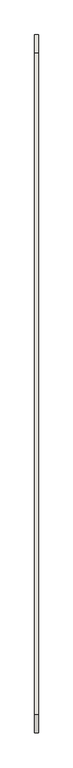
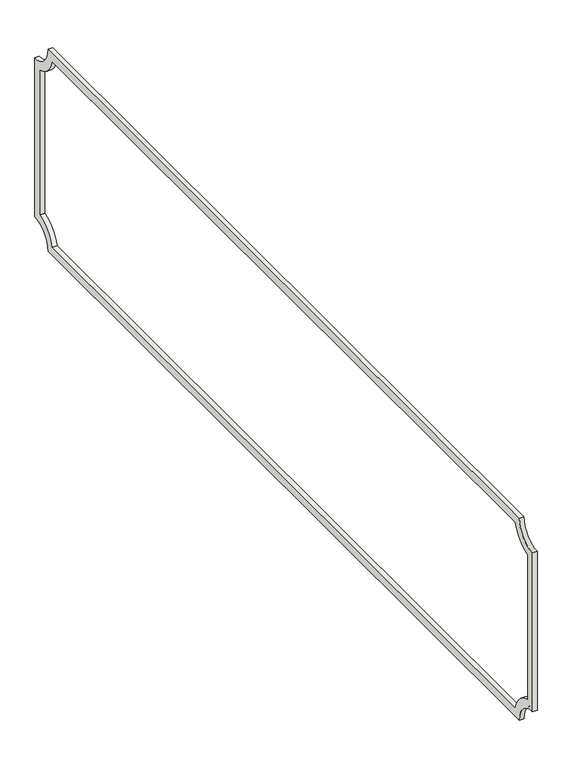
"""IFC4 building model written with IfcOpenShell, lengths in millimetres: wall geometry, 招牌字框 : 招牌字框."""

import ifcopenshell
import ifcopenshell.guid

model = None  # the IFC model being written
_history = None  # IfcOwnerHistory: only IFC2X3 demands one
_inside = {}  # id of a spatial element -> (the spatial element, [elements in it])
_under = {}  # id of a project, library or spatial element -> (it, [spatial elements below it])
_declared = {}  # id of a project -> (the project, [libraries it declares])
_typed = {}  # id of a type object -> (the type object, [elements of that type])
_made_of = {}  # id of a material, layer set ... -> (it, [elements and type objects made of it])


def new_model(schema):
    """Start an empty IFC model of exactly this schema.

    Asked for "IFC4X3", IfcOpenShell would pick the latest addendum, in which some entities
    have other attributes; the version numbers below select the first issue.
    IFC2X3 requires an IfcOwnerHistory on every rooted entity: one is made here for all.
    """
    global model, _history
    if schema == "IFC4X3":
        model = ifcopenshell.file(schema_version=(4, 3, 0, 0))
    else:
        model = ifcopenshell.file(schema=schema)
    _inside.clear()
    _under.clear()
    _declared.clear()
    _typed.clear()
    _made_of.clear()
    _history = None
    if model.schema == "IFC2X3":
        org = make("IfcOrganization", Name="unknown")
        user = make(
            "IfcPersonAndOrganization",
            ThePerson=make("IfcPerson", FamilyName="unknown"),
            TheOrganization=org,
        )
        app = make(
            "IfcApplication",
            ApplicationDeveloper=org,
            Version="unknown",
            ApplicationFullName="unknown",
            ApplicationIdentifier="unknown",
        )
        _history = make(
            "IfcOwnerHistory",
            OwningUser=user,
            OwningApplication=app,
            ChangeAction="ADDED",
            CreationDate=0,
        )
    return model


def make(cls, **values):
    """One entity of the class cls with the attributes given. An attribute that is None is left unset."""
    return model.create_entity(
        cls, **{name: value for name, value in values.items() if value is not None}
    )


def rooted(cls, **values):
    """An entity with a GlobalId (a new one), such as an element, a storey or a relation."""
    return make(cls, GlobalId=ifcopenshell.guid.new(), OwnerHistory=_history, **values)


def si_unit(unit_type, name, prefix=None):
    """IfcSIUnit, for example si_unit("LENGTHUNIT", "METRE", prefix="MILLI")."""
    return make("IfcSIUnit", UnitType=unit_type, Prefix=prefix, Name=name)


def assignment(units):
    """IfcUnitAssignment: the units of a project."""
    return None if units is None else make("IfcUnitAssignment", Units=units)


def point(xyz):
    """IfcCartesianPoint."""
    return None if xyz is None else make("IfcCartesianPoint", Coordinates=xyz)


def direction(xyz):
    """IfcDirection."""
    return None if xyz is None else make("IfcDirection", DirectionRatios=xyz)


def frame(location, z_axis=None, x_axis=None):
    """IfcAxis2Placement3D, a coordinate frame: its origin and axes. An axis left out is left unset."""
    return make(
        "IfcAxis2Placement3D",
        Location=point(location),
        Axis=direction(z_axis),
        RefDirection=direction(x_axis),
    )


def frame_2d(location, x_axis=None):
    """IfcAxis2Placement2D, a coordinate frame in the plane: its origin and x axis."""
    return make(
        "IfcAxis2Placement2D", Location=point(location), RefDirection=direction(x_axis)
    )


def origin():
    """The frame at (0, 0, 0) with its axes left unset."""
    return frame((0.0, 0.0, 0.0))


def place(relative_to, where):
    """IfcLocalPlacement: puts the frame where relative to a parent placement (None: the world)."""
    return make(
        "IfcLocalPlacement", PlacementRelTo=relative_to, RelativePlacement=where
    )


def context(
    kind, dimensions, precision=None, world=None, true_north=None, identifier=None
):
    """IfcGeometricRepresentationContext, for example the 3D "Model" context."""
    return make(
        "IfcGeometricRepresentationContext",
        ContextIdentifier=identifier,
        ContextType=kind,
        CoordinateSpaceDimension=dimensions,
        Precision=precision,
        WorldCoordinateSystem=world,
        TrueNorth=true_north,
    )


def project(units=None, contexts=None):
    """IfcProject with its units and contexts."""
    return rooted(
        "IfcProject",
        Name="project",
        RepresentationContexts=contexts,
        UnitsInContext=assignment(units),
    )


def spatial(cls, under=None, at=None, **own):
    """A site, building, storey or space (cls), placed at a placement, below another one or the project."""
    s = rooted(cls, ObjectPlacement=at, **own)
    if under is not None:
        _under.setdefault(under.id(), (under, []))[1].append(s)
    return s


def polyline(points):
    """IfcPolyline through the points."""
    return make("IfcPolyline", Points=[point(p) for p in points])


def circle_curve(where, radius):
    """IfcCircle in the frame where."""
    return make("IfcCircle", Position=where, Radius=radius)


def trimmed(basis, trim1, trim2, sense, master):
    """IfcTrimmedCurve: the piece of a basis curve between two trims."""
    return make(
        "IfcTrimmedCurve",
        BasisCurve=basis,
        Trim1=trim1,
        Trim2=trim2,
        SenseAgreement=sense,
        MasterRepresentation=master,
    )


def segment(curve, same_sense, transition):
    """IfcCompositeCurveSegment."""
    return make(
        "IfcCompositeCurveSegment",
        Transition=transition,
        SameSense=same_sense,
        ParentCurve=curve,
    )


def composite_curve(segments, self_intersect=None):
    """IfcCompositeCurve: segments joined end to end."""
    return make("IfcCompositeCurve", Segments=segments, SelfIntersect=self_intersect)


def outline(outer, holes=None, kind="AREA"):
    """IfcArbitraryClosedProfileDef: a profile drawn as a closed curve; with holes, ...WithVoids."""
    if holes is None:
        return make("IfcArbitraryClosedProfileDef", ProfileType=kind, OuterCurve=outer)
    return make(
        "IfcArbitraryProfileDefWithVoids",
        ProfileType=kind,
        OuterCurve=outer,
        InnerCurves=holes,
    )


def extrude(swept, where, along, depth):
    """IfcExtrudedAreaSolid: the profile swept, set in the frame where, extruded along a direction by depth."""
    return make(
        "IfcExtrudedAreaSolid",
        SweptArea=swept,
        Position=where,
        ExtrudedDirection=direction(along),
        Depth=depth,
    )


def shape(context_of_items, identifier, shape_type, items):
    """IfcShapeRepresentation: the items that make up one representation, for example the "Body"."""
    return make(
        "IfcShapeRepresentation",
        ContextOfItems=context_of_items,
        RepresentationIdentifier=identifier,
        RepresentationType=shape_type,
        Items=items,
    )


def source(mapping_origin, context_of_items, identifier, shape_type, items):
    """IfcRepresentationMap: a shape defined once, which mapped items show again and again."""
    return make(
        "IfcRepresentationMap",
        MappingOrigin=mapping_origin,
        MappedRepresentation=shape(context_of_items, identifier, shape_type, items),
    )


def transform(
    local_origin,
    x_axis=None,
    y_axis=None,
    z_axis=None,
    scale=None,
    scale2=None,
    scale3=None,
    uniform=True,
):
    """IfcCartesianTransformationOperator3D, or its non-uniform kind. x_axis, y_axis, z_axis: its Axis1, 2, 3."""
    if uniform:
        return make(
            "IfcCartesianTransformationOperator3D",
            Axis1=direction(x_axis),
            Axis2=direction(y_axis),
            LocalOrigin=point(local_origin),
            Scale=scale,
            Axis3=direction(z_axis),
        )
    return make(
        "IfcCartesianTransformationOperator3DnonUniform",
        Axis1=direction(x_axis),
        Axis2=direction(y_axis),
        LocalOrigin=point(local_origin),
        Scale=scale,
        Axis3=direction(z_axis),
        Scale2=scale2,
        Scale3=scale3,
    )


def mapped(mapping_source, mapping_target):
    """IfcMappedItem: shows the shape of a source again, moved by a transform."""
    return make(
        "IfcMappedItem", MappingSource=mapping_source, MappingTarget=mapping_target
    )


def made_of(thing, what):
    """Note that an element or type object is made of a material, layer set ...; save() writes the relation."""
    if what is not None:
        _made_of.setdefault(what.id(), (what, []))[1].append(thing)
    return thing


def element(
    cls,
    number,
    at=None,
    inside=None,
    cuts=None,
    type_object=None,
    material=None,
    context=None,
    identifier="Body",
    shape_type=None,
    held_by="IfcProductDefinitionShape",
    body=None,
    shapes=None,
    **own,
):
    """One element of the class cls, such as IfcWall. Its Tag is "e" and its number.

    at: its placement. inside: the storey or other place that contains it. cuts: it is an
    opening in that element (IfcRelVoidsElement). A single representation is given by context,
    identifier, shape_type and body (its items); several are given by shapes. held_by: the class
    of the entity that holds the representations. save() writes the other relations.
    """
    e = rooted(cls, Tag="e%d" % number, ObjectPlacement=at, **own)
    if body is not None:
        shapes = [shape(context, identifier, shape_type, body)]
    if shapes is not None:
        e.Representation = make(held_by, Representations=shapes)
    if inside is not None:
        _inside.setdefault(inside.id(), (inside, []))[1].append(e)
    if cuts is not None:
        rooted(
            "IfcRelVoidsElement", RelatingBuildingElement=cuts, RelatedOpeningElement=e
        )
    if type_object is not None:
        _typed.setdefault(type_object.id(), (type_object, []))[1].append(e)
    return made_of(e, material)


def aggregate(whole, parts):
    """IfcRelAggregates: a whole, such as a stair, and the parts it consists of."""
    return rooted("IfcRelAggregates", RelatingObject=whole, RelatedObjects=parts)


def save(model, path):
    """Write the relations noted so far, then the file.

    IfcRelAggregates (storeys below a building ...), IfcRelContainedInSpatialStructure (elements
    in a storey), IfcRelDefinesByType, IfcRelAssociatesMaterial and IfcRelDeclares: one each for
    every whole, place, type object, material and project.
    """
    for whole, parts in _under.values():
        aggregate(whole, parts)
    for where, things in _inside.values():
        rooted(
            "IfcRelContainedInSpatialStructure",
            RelatedElements=things,
            RelatingStructure=where,
        )
    for kind, things in _typed.values():
        rooted("IfcRelDefinesByType", RelatedObjects=things, RelatingType=kind)
    for what, things in _made_of.values():
        rooted("IfcRelAssociatesMaterial", RelatedObjects=things, RelatingMaterial=what)
    for by, libraries in _declared.values():
        rooted("IfcRelDeclares", RelatingContext=by, RelatedDefinitions=libraries)
    model.write(path)


def wall_db35d8b6(model_context):
    return source(origin(), model_context, "Body", "SweptSolid", [
        extrude(outline(composite_curve([segment(trimmed(circle_curve(frame_2d((2619.516625, 3440.0)), 50.0), [point((2569.516625, 3440.0))], [point((2619.516625, 3390.0))], True, "CARTESIAN"), True, "CONTINUOUS"), segment(polyline([(2619.516625, 3390.0), (2619.516625, 3020.0)]), True, "CONTINUOUS"), segment(trimmed(circle_curve(frame_2d((2619.516625, 2970.0)), 50.0), [point((2619.516625, 3020.0))], [point((2569.516625, 2970.0))], True, "CARTESIAN"), True, "CONTINUOUS"), segment(polyline([(2569.516625, 2970.0), (769.516625, 2970.0)]), True, "CONTINUOUS"), segment(trimmed(circle_curve(frame_2d((719.516625, 2970.0)), 50.0), [point((769.516625, 2970.0))], [point((719.516625, 3020.0))], True, "CARTESIAN"), True, "CONTINUOUS"), segment(polyline([(719.516625, 3020.0), (719.516625, 3390.0)]), True, "CONTINUOUS"), segment(trimmed(circle_curve(frame_2d((719.516625, 3440.0)), 50.0), [point((719.516625, 3390.0))], [point((769.516625, 3440.0))], True, "CARTESIAN"), True, "CONTINUOUS"), segment(polyline([(769.516625, 3440.0), (2569.516625, 3440.0)]), True, "CONTINUOUS")], self_intersect=False), holes=[composite_curve([segment(polyline([(2552.4345857, 3420.0), (786.5986643, 3420.0)]), True, "CONTINUOUS"), segment(trimmed(circle_curve(frame_2d((719.516625, 3440.0)), 70.0), [point((786.5986643, 3420.0))], [point((739.516625, 3372.9179607))], False, "CARTESIAN"), True, "CONTINUOUS"), segment(polyline([(739.516625, 3372.9179607), (739.516625, 3037.0820393)]), True, "CONTINUOUS"), segment(trimmed(circle_curve(frame_2d((719.516625, 2970.0)), 70.0), [point((739.516625, 3037.0820393))], [point((786.5986643, 2990.0))], False, "CARTESIAN"), True, "CONTINUOUS"), segment(polyline([(786.5986643, 2990.0), (2552.4345857, 2990.0)]), True, "CONTINUOUS"), segment(trimmed(circle_curve(frame_2d((2619.516625, 2970.0)), 70.0), [point((2552.4345857, 2990.0))], [point((2599.516625, 3037.0820393))], False, "CARTESIAN"), True, "CONTINUOUS"), segment(polyline([(2599.516625, 3037.0820393), (2599.516625, 3372.9179607)]), True, "CONTINUOUS"), segment(trimmed(circle_curve(frame_2d((2619.516625, 3440.0)), 70.0), [point((2599.516625, 3372.9179607))], [point((2552.4345857, 3420.0))], False, "CARTESIAN"), True, "CONTINUOUS")], self_intersect=False)]), frame((5069.1580578, 0.0, 0.0), z_axis=(1.0, 0.0, 0.0), x_axis=(0.0, 1.0, 0.0)), (0.0, 0.0, 1.0), 10.0),
    ])


if __name__ == "__main__":
    model = new_model("IFC4")
    model_context = context("Model", 3, world=origin())
    ifc_project = project(units=[si_unit("LENGTHUNIT", "METRE", prefix="MILLI")], contexts=[model_context])
    site = spatial("IfcSite", under=ifc_project)
    building = spatial("IfcBuilding", under=site)
    placement = place(None, origin())
    wall_shape = wall_db35d8b6(model_context)
    element("IfcWall", 1, ObjectType="招牌字框 : 招牌字框", at=placement, inside=building, context=model_context, shape_type="MappedRepresentation", body=[
        mapped(wall_shape, transform((0.0, 0.0, 0.0), x_axis=(1.0, 0.0, 0.0), y_axis=(0.0, 1.0, 0.0), z_axis=(0.0, 0.0, 1.0))),
    ])
    save(model, "model.ifc")
